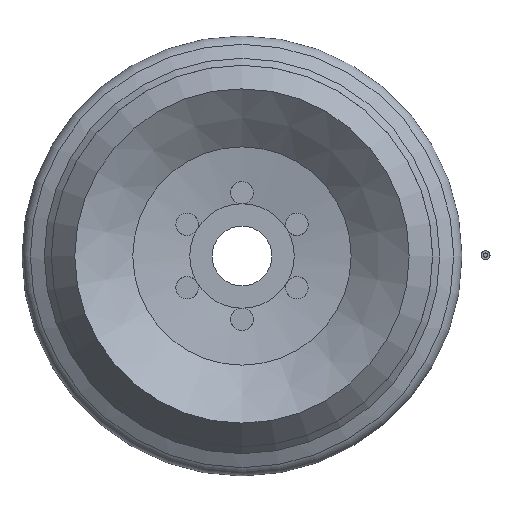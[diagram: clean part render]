
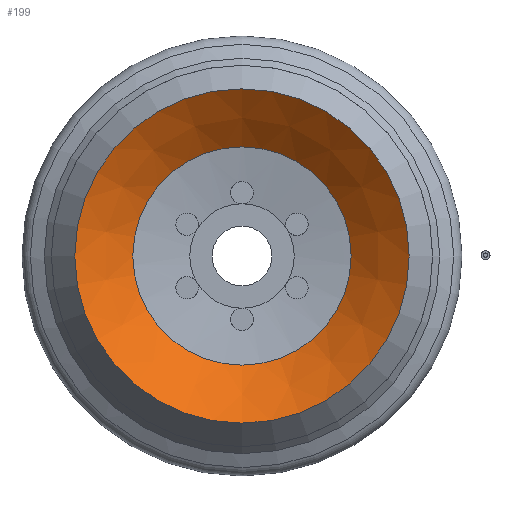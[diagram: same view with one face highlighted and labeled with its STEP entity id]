
A CAD part, front view. The second image highlights one B-rep face of the part: STEP entity #199.
In plain terms, the highlighted conical face has half-angle 51.03 degrees and reference radius 14.637 mm.
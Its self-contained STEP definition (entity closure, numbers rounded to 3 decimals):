
#199=ADVANCED_FACE('',(#374,#375),#376,.F.);
#374=FACE_OUTER_BOUND('',#525,.T.);
#375=FACE_BOUND('',#526,.T.);
#376=CONICAL_SURFACE('',#527,14.637,0.891);
#525=EDGE_LOOP('',(#746));
#526=EDGE_LOOP('',(#747));
#527=AXIS2_PLACEMENT_3D('',#748,#749,#750);
#746=ORIENTED_EDGE('',*,*,#837,.T.);
#747=ORIENTED_EDGE('',*,*,#838,.F.);
#748=CARTESIAN_POINT('',(0.,-31.598,0.));
#749=DIRECTION('',(0.,-1.0,0.));
#750=DIRECTION('',(0.0,0.,-1.0));
#837=EDGE_CURVE('',#945,#945,#946,.T.);
#838=EDGE_CURVE('',#947,#947,#948,.T.);
#945=VERTEX_POINT('',#1349);
#946=CIRCLE('',#1350,22.412);
#947=VERTEX_POINT('',#1351);
#948=CIRCLE('',#1352,14.637);
#1349=CARTESIAN_POINT('',(0.,-37.887,-22.412));
#1350=AXIS2_PLACEMENT_3D('',#1451,#1452,#1453);
#1351=CARTESIAN_POINT('',(0.,-31.598,-14.637));
#1352=AXIS2_PLACEMENT_3D('',#1454,#1455,#1456);
#1451=CARTESIAN_POINT('',(0.,-37.887,0.));
#1452=DIRECTION('',(0.,-1.0,0.));
#1453=DIRECTION('',(0.0,0.,-1.0));
#1454=CARTESIAN_POINT('',(0.,-31.598,0.));
#1455=DIRECTION('',(0.,-1.0,0.));
#1456=DIRECTION('',(0.0,0.,-1.0));
